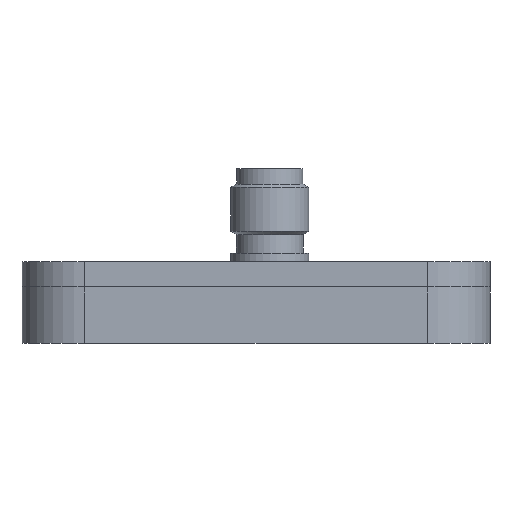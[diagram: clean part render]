
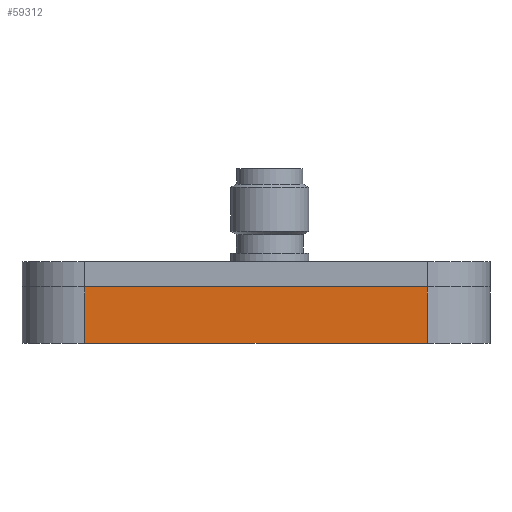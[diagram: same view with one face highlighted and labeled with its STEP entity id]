
A CAD part, left-side view. The second image highlights one B-rep face of the part: STEP entity #59312.
In plain terms, the highlighted planar face has unit normal (-1, 0, 0).
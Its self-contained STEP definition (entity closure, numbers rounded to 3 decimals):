
#4973 = AXIS2_PLACEMENT_3D ( 'NONE', #50393, #19245, #24495 ) ;
#7541 = EDGE_CURVE ( 'NONE', #15473, #43553, #23470, .T. ) ;
#9720 = CARTESIAN_POINT ( 'NONE',  ( -24.5, -13.7, 2.25 ) ) ;
#10220 = LINE ( 'NONE', #53793, #64735 ) ;
#11779 = DIRECTION ( 'NONE',  ( 0., 1., 0. ) ) ;
#12011 = CARTESIAN_POINT ( 'NONE',  ( -24.5, 0., 2.25 ) ) ;
#14015 = PLANE ( 'NONE',  #4973 ) ;
#15316 = ORIENTED_EDGE ( 'NONE', *, *, #48401, .F. ) ;
#15473 = VERTEX_POINT ( 'NONE', #16397 ) ;
#16397 = CARTESIAN_POINT ( 'NONE',  ( -24.5, 13.7, 2.25 ) ) ;
#16694 = LINE ( 'NONE', #12011, #45151 ) ;
#18838 = CARTESIAN_POINT ( 'NONE',  ( -24.5, 13.7, 2.25 ) ) ;
#19245 = DIRECTION ( 'NONE',  ( -1., 0., 0. ) ) ;
#22325 = CARTESIAN_POINT ( 'NONE',  ( -24.5, 13.7, -2.25 ) ) ;
#22522 = VERTEX_POINT ( 'NONE', #45067 ) ;
#23470 = LINE ( 'NONE', #18838, #44612 ) ;
#24495 = DIRECTION ( 'NONE',  ( 0., -1., 0. ) ) ;
#28332 = VECTOR ( 'NONE', #37414, 1000. ) ;
#30388 = ORIENTED_EDGE ( 'NONE', *, *, #7541, .T. ) ;
#32163 = EDGE_LOOP ( 'NONE', ( #15316, #63055, #41037, #30388 ) ) ;
#32417 = DIRECTION ( 'NONE',  ( 0., 1., 0. ) ) ;
#37414 = DIRECTION ( 'NONE',  ( 0., 0., 1. ) ) ;
#40102 = VERTEX_POINT ( 'NONE', #9720 ) ;
#41037 = ORIENTED_EDGE ( 'NONE', *, *, #66587, .T. ) ;
#41253 = CARTESIAN_POINT ( 'NONE',  ( -24.5, -13.7, 2.25 ) ) ;
#43553 = VERTEX_POINT ( 'NONE', #22325 ) ;
#44612 = VECTOR ( 'NONE', #65086, 1000. ) ;
#45067 = CARTESIAN_POINT ( 'NONE',  ( -24.5, -13.7, -2.25 ) ) ;
#45111 = FACE_OUTER_BOUND ( 'NONE', #32163, .T. ) ;
#45151 = VECTOR ( 'NONE', #11779, 1000. ) ;
#48401 = EDGE_CURVE ( 'NONE', #22522, #43553, #10220, .T. ) ;
#50393 = CARTESIAN_POINT ( 'NONE',  ( -24.5, 0., 2.25 ) ) ;
#53793 = CARTESIAN_POINT ( 'NONE',  ( -24.5, 0., -2.25 ) ) ;
#55619 = EDGE_CURVE ( 'NONE', #22522, #40102, #57633, .T. ) ;
#57633 = LINE ( 'NONE', #41253, #28332 ) ;
#59312 = ADVANCED_FACE ( 'NONE', ( #45111 ), #14015, .T. ) ;
#63055 = ORIENTED_EDGE ( 'NONE', *, *, #55619, .T. ) ;
#64735 = VECTOR ( 'NONE', #32417, 1000. ) ;
#65086 = DIRECTION ( 'NONE',  ( 0., 0., -1. ) ) ;
#66587 = EDGE_CURVE ( 'NONE', #40102, #15473, #16694, .T. ) ;
